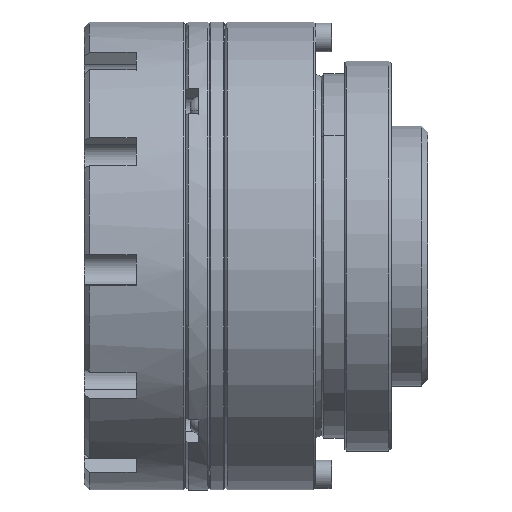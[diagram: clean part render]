
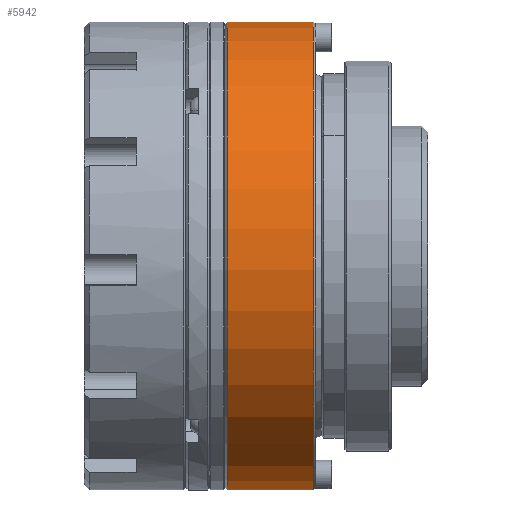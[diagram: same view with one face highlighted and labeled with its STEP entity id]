
A CAD part, front view. The second image highlights one B-rep face of the part: STEP entity #5942.
In plain terms, the highlighted cylindrical face has radius 45 mm (diameter 90 mm), a partial arc.
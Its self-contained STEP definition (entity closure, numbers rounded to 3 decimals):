
#1431 = EDGE_CURVE ( 'NONE', #20001, #52311, #29224, .T. ) ;
#4045 = AXIS2_PLACEMENT_3D ( 'NONE', #14827, #27175, #53027 ) ;
#4113 = EDGE_LOOP ( 'NONE', ( #30151, #64827, #4334, #10246 ) ) ;
#4334 = ORIENTED_EDGE ( 'NONE', *, *, #1431, .T. ) ;
#5942 = ADVANCED_FACE ( 'NONE', ( #25189 ), #8019, .T. ) ;
#8019 = CYLINDRICAL_SURFACE ( 'NONE', #13010, 45. ) ;
#8803 = DIRECTION ( 'NONE',  ( -1., 0., 0. ) ) ;
#10246 = ORIENTED_EDGE ( 'NONE', *, *, #71027, .F. ) ;
#11921 = CARTESIAN_POINT ( 'NONE',  ( 13.65, 2.739, -44.917 ) ) ;
#12115 = CARTESIAN_POINT ( 'NONE',  ( 14.15, 2.739, -44.917 ) ) ;
#13010 = AXIS2_PLACEMENT_3D ( 'NONE', #63764, #64201, #78994 ) ;
#14827 = CARTESIAN_POINT ( 'NONE',  ( 30.65, 0., 0. ) ) ;
#16858 = VERTEX_POINT ( 'NONE', #45126 ) ;
#18082 = DIRECTION ( 'NONE',  ( 0., -0.061, 0.998 ) ) ;
#20001 = VERTEX_POINT ( 'NONE', #37845 ) ;
#22529 = VERTEX_POINT ( 'NONE', #12115 ) ;
#25189 = FACE_OUTER_BOUND ( 'NONE', #4113, .T. ) ;
#27175 = DIRECTION ( 'NONE',  ( -1., 0., 0. ) ) ;
#28806 = VECTOR ( 'NONE', #30617, 1000. ) ;
#29224 = LINE ( 'NONE', #55051, #46216 ) ;
#30151 = ORIENTED_EDGE ( 'NONE', *, *, #76445, .F. ) ;
#30617 = DIRECTION ( 'NONE',  ( -1., 0., 0. ) ) ;
#33385 = CARTESIAN_POINT ( 'NONE',  ( 14.15, -2.739, 44.917 ) ) ;
#35049 = CIRCLE ( 'NONE', #49934, 45. ) ;
#37845 = CARTESIAN_POINT ( 'NONE',  ( 30.65, -2.739, 44.917 ) ) ;
#40841 = CIRCLE ( 'NONE', #4045, 45. ) ;
#45126 = CARTESIAN_POINT ( 'NONE',  ( 30.65, 2.739, -44.917 ) ) ;
#46216 = VECTOR ( 'NONE', #8803, 1000. ) ;
#49934 = AXIS2_PLACEMENT_3D ( 'NONE', #62974, #69000, #18082 ) ;
#52311 = VERTEX_POINT ( 'NONE', #33385 ) ;
#53027 = DIRECTION ( 'NONE',  ( 0., -0.061, 0.998 ) ) ;
#55051 = CARTESIAN_POINT ( 'NONE',  ( 13.65, -2.739, 44.917 ) ) ;
#62974 = CARTESIAN_POINT ( 'NONE',  ( 14.15, 0., 0. ) ) ;
#63764 = CARTESIAN_POINT ( 'NONE',  ( 13.65, 0., 0. ) ) ;
#64201 = DIRECTION ( 'NONE',  ( -1., 0., 0. ) ) ;
#64827 = ORIENTED_EDGE ( 'NONE', *, *, #75793, .T. ) ;
#69000 = DIRECTION ( 'NONE',  ( -1., 0., 0. ) ) ;
#71027 = EDGE_CURVE ( 'NONE', #22529, #52311, #35049, .T. ) ;
#75793 = EDGE_CURVE ( 'NONE', #16858, #20001, #40841, .T. ) ;
#76445 = EDGE_CURVE ( 'NONE', #16858, #22529, #82429, .T. ) ;
#78994 = DIRECTION ( 'NONE',  ( 0., -0.061, 0.998 ) ) ;
#82429 = LINE ( 'NONE', #11921, #28806 ) ;
